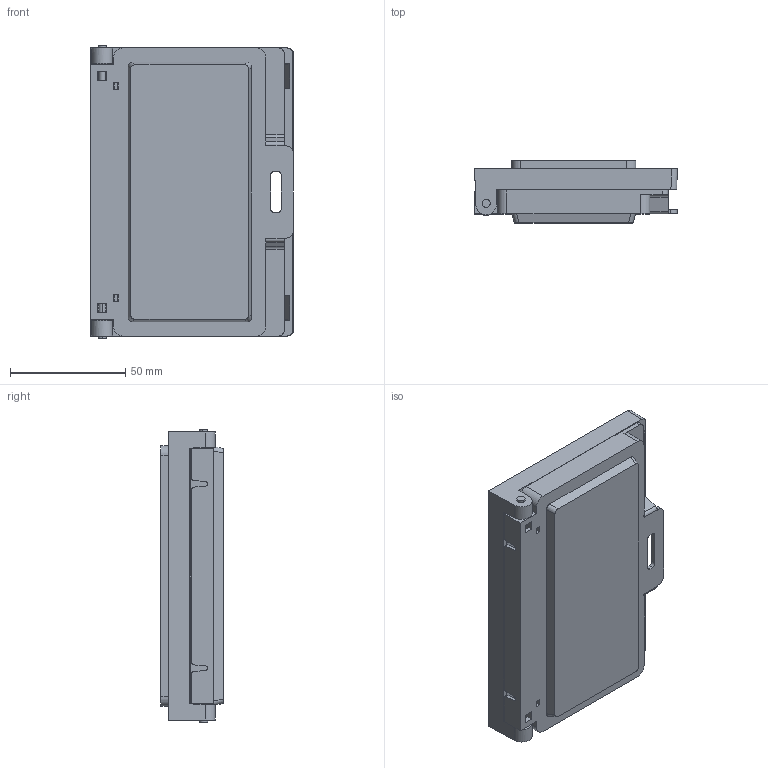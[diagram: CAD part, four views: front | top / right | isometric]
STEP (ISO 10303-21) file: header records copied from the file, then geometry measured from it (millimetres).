
FILE_DESCRIPTION (( 'STEP AP214' ), '1' );
FILE_NAME ('4.111.STEP', '2024-04-23T05:24:36', ( '' ), ( '' ), 'SwSTEP 2.0', 'SolidWorks 2021', '' );
FILE_SCHEMA (( 'AUTOMOTIVE_DESIGN' ));
Length unit declared in the file: millimetre
Products named in the file (4): 4.111.01_A; 4.111.03_A; 4.111.02_A; 4.111
Assembly tree (4 placements, depth 2):
  4.111
    4.111.01_A
    4.111.03_A  x2
    4.111.02_A
Bounding box: 88 x 27 x 127 mm (x, y, z)
Volume: 72463.5 mm3; surface area: 77924.9 mm2
Topology: 5 solids, 5 shells, 552 faces, 1571 edges, 1030 vertices
Faces by surface type: plane 334, cylinder 182, bspline 20, cone 16
Entity records: 18852 total; most frequent: CARTESIAN_POINT 4267, ORIENTED_EDGE 3106, DIRECTION 2941, EDGE_CURVE 1553, VECTOR 1097, LINE 1097, VERTEX_POINT 1018, AXIS2_PLACEMENT_3D 922
